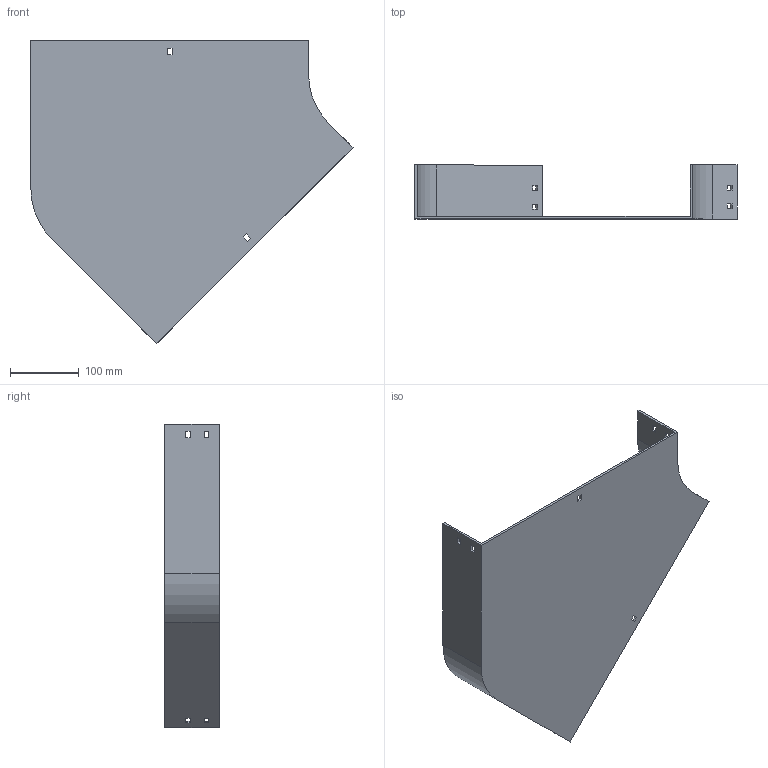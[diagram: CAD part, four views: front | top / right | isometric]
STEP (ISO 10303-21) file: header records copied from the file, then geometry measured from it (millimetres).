
FILE_DESCRIPTION (( 'STEP AP214' ), '1' );
FILE_NAME ('11B1C400.step', '2025-02-21T09:38:48', ( '' ), ( '' ), 'SwSTEP 2.0', 'SolidWorks 2023', '' );
FILE_SCHEMA (( 'AUTOMOTIVE_DESIGN' ));
Length unit declared in the file: millimetre
Products named in the file (1): 11B1C400
Bounding box: 468.64 x 79 x 441.74 mm (x, y, z)
Volume: 675590.8 mm3; surface area: 393527 mm2
Topology: 1 solids, 1 shells, 58 faces, 168 edges, 112 vertices
Faces by surface type: plane 54, cylinder 4
Entity records: 1943 total; most frequent: CARTESIAN_POINT 339, ORIENTED_EDGE 336, DIRECTION 294, EDGE_CURVE 168, LINE 160, VECTOR 160, VERTEX_POINT 112, EDGE_LOOP 78
